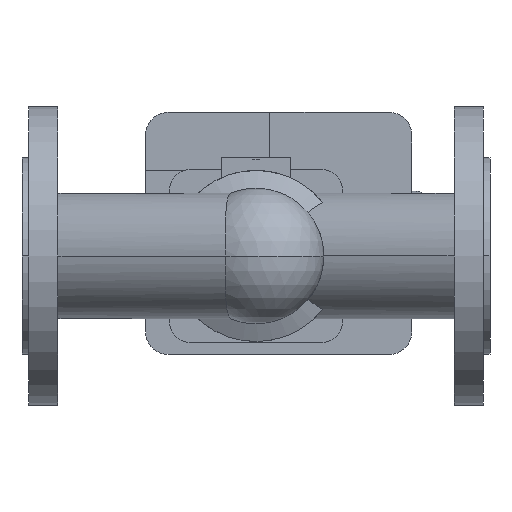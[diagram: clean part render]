
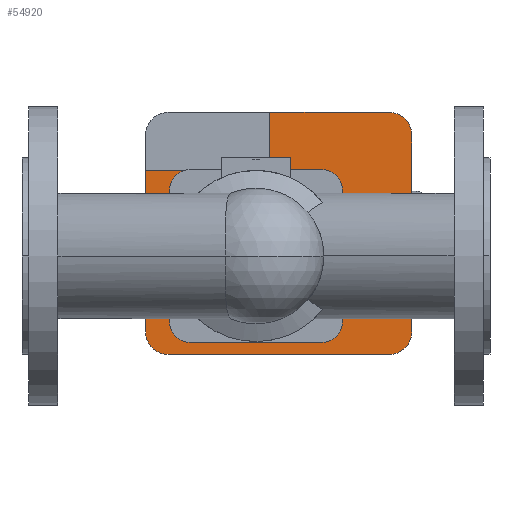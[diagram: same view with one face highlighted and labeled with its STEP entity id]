
A CAD part, front view. The second image highlights one B-rep face of the part: STEP entity #54920.
In plain terms, the highlighted planar face has unit normal (0, -1, 0).
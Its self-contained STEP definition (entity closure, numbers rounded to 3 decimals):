
#40640=CARTESIAN_POINT('',(204.96,339.,11.216));
#40650=VERTEX_POINT('',#40640);
#40680=CARTESIAN_POINT('',(195.,339.,0.));
#40690=DIRECTION('',(0.,1.,0.));
#40700=DIRECTION('',(0.,0.,1.));
#40710=AXIS2_PLACEMENT_3D('',#40680,#40690,#40700);
#40720=CIRCLE('',#40710,15.);
#40730=CARTESIAN_POINT('',(204.96,339.,-11.216));
#40740=VERTEX_POINT('',#40730);
#40750=EDGE_CURVE('',#40650,#40740,#40720,.T.);
#43470=CARTESIAN_POINT('',(187.116,339.,44.128));
#43480=VERTEX_POINT('',#43470);
#43510=CARTESIAN_POINT('',(145.,339.,0.));
#43520=DIRECTION('',(0.,1.,0.));
#43530=DIRECTION('',(0.69,0.,0.723));
#43540=AXIS2_PLACEMENT_3D('',#43510,#43520,#43530);
#43550=CIRCLE('',#43540,61.);
#43560=EDGE_CURVE('',#43480,#40650,#43550,.T.);
#43950=CARTESIAN_POINT('',(85.04,339.,-11.216));
#43960=VERTEX_POINT('',#43950);
#43990=CARTESIAN_POINT('',(95.,339.,0.));
#44000=DIRECTION('',(0.,1.,0.));
#44010=DIRECTION('',(0.,0.,-1.));
#44020=AXIS2_PLACEMENT_3D('',#43990,#44000,#44010);
#44030=CIRCLE('',#44020,15.);
#44040=CARTESIAN_POINT('',(85.04,339.,11.216));
#44050=VERTEX_POINT('',#44040);
#44060=EDGE_CURVE('',#43960,#44050,#44030,.T.);
#45050=CARTESIAN_POINT('',(102.884,339.,-44.128));
#45060=VERTEX_POINT('',#45050);
#45090=CARTESIAN_POINT('',(145.,339.,0.));
#45100=DIRECTION('',(0.,1.,0.));
#45110=DIRECTION('',(-0.69,0.,-0.723));
#45120=AXIS2_PLACEMENT_3D('',#45090,#45100,#45110);
#45130=CIRCLE('',#45120,61.);
#45140=EDGE_CURVE('',#45060,#43960,#45130,.T.);
#50790=CARTESIAN_POINT('',(241.6,339.,-47.));
#50800=VERTEX_POINT('',#50790);
#50830=CARTESIAN_POINT('',(241.6,339.,75.));
#50840=DIRECTION('',(0.,0.,-1.));
#50850=VECTOR('',#50840,1.);
#50860=LINE('',#50830,#50850);
#50870=CARTESIAN_POINT('',(241.6,339.,75.));
#50880=VERTEX_POINT('',#50870);
#50890=EDGE_CURVE('',#50880,#50800,#50860,.T.);
#51210=CARTESIAN_POINT('',(90.6,339.,-61.));
#51220=VERTEX_POINT('',#51210);
#51250=CARTESIAN_POINT('',(227.6,339.,-61.));
#51260=DIRECTION('',(-1.,0.,0.));
#51270=VECTOR('',#51260,1.);
#51280=LINE('',#51250,#51270);
#51290=CARTESIAN_POINT('',(227.6,339.,-61.));
#51300=VERTEX_POINT('',#51290);
#51310=EDGE_CURVE('',#51300,#51220,#51280,.T.);
#51910=CARTESIAN_POINT('',(227.6,339.,-47.));
#51920=DIRECTION('',(0.,1.,0.));
#51930=DIRECTION('',(1.,0.,0.));
#51940=AXIS2_PLACEMENT_3D('',#51910,#51920,#51930);
#51950=CIRCLE('',#51940,14.);
#51960=EDGE_CURVE('',#50800,#51300,#51950,.T.);
#52280=CARTESIAN_POINT('',(102.884,339.,44.128));
#52290=VERTEX_POINT('',#52280);
#52320=CARTESIAN_POINT('',(112.55,339.,34.));
#52330=DIRECTION('',(0.,1.,0.));
#52340=DIRECTION('',(-0.69,0.,0.723));
#52350=AXIS2_PLACEMENT_3D('',#52320,#52330,#52340);
#52360=CIRCLE('',#52350,14.);
#52370=CARTESIAN_POINT('',(112.55,339.,48.));
#52380=VERTEX_POINT('',#52370);
#52390=EDGE_CURVE('',#52290,#52380,#52360,.T.);
#52570=CARTESIAN_POINT('',(128.775,339.,48.));
#52580=DIRECTION('',(1.,0.,0.));
#52590=VECTOR('',#52580,1.);
#52600=LINE('',#52570,#52590);
#52610=CARTESIAN_POINT('',(177.45,339.,48.));
#52620=VERTEX_POINT('',#52610);
#52630=EDGE_CURVE('',#52380,#52620,#52600,.T.);
#52810=CARTESIAN_POINT('',(177.45,339.,34.));
#52820=DIRECTION('',(0.,1.,0.));
#52830=DIRECTION('',(0.,0.,1.));
#52840=AXIS2_PLACEMENT_3D('',#52810,#52820,#52830);
#52850=CIRCLE('',#52840,14.);
#52860=EDGE_CURVE('',#52620,#43480,#52850,.T.);
#52980=CARTESIAN_POINT('',(145.,339.,0.));
#52990=DIRECTION('',(0.,1.,0.));
#53000=DIRECTION('',(0.69,0.,0.723));
#53010=AXIS2_PLACEMENT_3D('',#52980,#52990,#53000);
#53020=CIRCLE('',#53010,61.);
#53030=CARTESIAN_POINT('',(187.116,339.,-44.128));
#53040=VERTEX_POINT('',#53030);
#53050=EDGE_CURVE('',#40740,#53040,#53020,.T.);
#53240=CARTESIAN_POINT('',(177.45,339.,-34.));
#53250=DIRECTION('',(0.,1.,0.));
#53260=DIRECTION('',(0.69,0.,-0.723));
#53270=AXIS2_PLACEMENT_3D('',#53240,#53250,#53260);
#53280=CIRCLE('',#53270,14.);
#53290=CARTESIAN_POINT('',(177.45,339.,-48.));
#53300=VERTEX_POINT('',#53290);
#53310=EDGE_CURVE('',#53040,#53300,#53280,.T.);
#53490=CARTESIAN_POINT('',(161.225,339.,-48.));
#53500=DIRECTION('',(-1.,0.,0.));
#53510=VECTOR('',#53500,1.);
#53520=LINE('',#53490,#53510);
#53530=CARTESIAN_POINT('',(112.55,339.,-48.));
#53540=VERTEX_POINT('',#53530);
#53550=EDGE_CURVE('',#53300,#53540,#53520,.T.);
#53730=CARTESIAN_POINT('',(112.55,339.,-34.));
#53740=DIRECTION('',(0.,1.,0.));
#53750=DIRECTION('',(0.,0.,-1.));
#53760=AXIS2_PLACEMENT_3D('',#53730,#53740,#53750);
#53770=CIRCLE('',#53760,14.);
#53780=EDGE_CURVE('',#53540,#45060,#53770,.T.);
#53900=CARTESIAN_POINT('',(145.,339.,0.));
#53910=DIRECTION('',(0.,1.,0.));
#53920=DIRECTION('',(-0.69,0.,-0.723));
#53930=AXIS2_PLACEMENT_3D('',#53900,#53910,#53920);
#53940=CIRCLE('',#53930,61.);
#53950=EDGE_CURVE('',#44050,#52290,#53940,.T.);
#54090=CARTESIAN_POINT('',(227.6,339.,75.));
#54100=DIRECTION('',(0.,1.,0.));
#54110=DIRECTION('',(0.,0.,1.));
#54120=AXIS2_PLACEMENT_3D('',#54090,#54100,#54110);
#54130=CIRCLE('',#54120,14.);
#54140=CARTESIAN_POINT('',(227.6,339.,89.));
#54150=VERTEX_POINT('',#54140);
#54160=EDGE_CURVE('',#54150,#50880,#54130,.T.);
#54280=CARTESIAN_POINT('',(145.,339.,0.));
#54290=DIRECTION('',(0.,1.,0.));
#54300=DIRECTION('',(0.,0.,1.));
#54310=AXIS2_PLACEMENT_3D('',#54280,#54290,#54300);
#54320=PLANE('',#54310);
#54330=ORIENTED_EDGE('',*,*,#43560,.T.);
#54340=ORIENTED_EDGE('',*,*,#52860,.T.);
#54350=ORIENTED_EDGE('',*,*,#52630,.T.);
#54360=ORIENTED_EDGE('',*,*,#52390,.T.);
#54370=ORIENTED_EDGE('',*,*,#53950,.T.);
#54380=ORIENTED_EDGE('',*,*,#44060,.T.);
#54390=ORIENTED_EDGE('',*,*,#45140,.T.);
#54400=ORIENTED_EDGE('',*,*,#53780,.T.);
#54410=ORIENTED_EDGE('',*,*,#53550,.T.);
#54420=ORIENTED_EDGE('',*,*,#53310,.T.);
#54430=ORIENTED_EDGE('',*,*,#53050,.T.);
#54440=ORIENTED_EDGE('',*,*,#40750,.T.);
#54450=EDGE_LOOP('',(#54440,#54430,#54420,#54410,#54400,#54390,#54380,
#54370,#54360,#54350,#54340,#54330));
#54460=FACE_BOUND('',#54450,.T.);
#54470=CARTESIAN_POINT('',(153.6,339.,26.5));
#54480=DIRECTION('',(0.,0.,-1.));
#54490=VECTOR('',#54480,1.);
#54500=LINE('',#54470,#54490);
#54510=CARTESIAN_POINT('',(153.6,339.,89.));
#54520=VERTEX_POINT('',#54510);
#54530=CARTESIAN_POINT('',(153.6,339.,53.));
#54540=VERTEX_POINT('',#54530);
#54550=EDGE_CURVE('',#54520,#54540,#54500,.T.);
#54560=ORIENTED_EDGE('',*,*,#54550,.T.);
#54570=CARTESIAN_POINT('',(90.6,339.,89.));
#54580=DIRECTION('',(1.,0.,0.));
#54590=VECTOR('',#54580,1.);
#54600=LINE('',#54570,#54590);
#54610=EDGE_CURVE('',#54520,#54150,#54600,.T.);
#54620=ORIENTED_EDGE('',*,*,#54610,.F.);
#54630=ORIENTED_EDGE('',*,*,#54160,.F.);
#54640=ORIENTED_EDGE('',*,*,#50890,.F.);
#54650=ORIENTED_EDGE('',*,*,#51960,.F.);
#54660=ORIENTED_EDGE('',*,*,#51310,.F.);
#54670=CARTESIAN_POINT('',(90.6,339.,-47.));
#54680=DIRECTION('',(0.,1.,0.));
#54690=DIRECTION('',(0.,0.,-1.));
#54700=AXIS2_PLACEMENT_3D('',#54670,#54680,#54690);
#54710=CIRCLE('',#54700,14.);
#54720=CARTESIAN_POINT('',(76.6,339.,-47.));
#54730=VERTEX_POINT('',#54720);
#54740=EDGE_CURVE('',#51220,#54730,#54710,.T.);
#54750=ORIENTED_EDGE('',*,*,#54740,.F.);
#54760=CARTESIAN_POINT('',(76.6,339.,-47.));
#54770=DIRECTION('',(0.,0.,1.));
#54780=VECTOR('',#54770,1.);
#54790=LINE('',#54760,#54780);
#54800=CARTESIAN_POINT('',(76.6,339.,53.));
#54810=VERTEX_POINT('',#54800);
#54820=EDGE_CURVE('',#54730,#54810,#54790,.T.);
#54830=ORIENTED_EDGE('',*,*,#54820,.F.);
#54840=CARTESIAN_POINT('',(110.3,339.,53.));
#54850=DIRECTION('',(-1.,0.,0.));
#54860=VECTOR('',#54850,1.);
#54870=LINE('',#54840,#54860);
#54880=EDGE_CURVE('',#54540,#54810,#54870,.T.);
#54890=ORIENTED_EDGE('',*,*,#54880,.T.);
#54900=EDGE_LOOP('',(#54890,#54830,#54750,#54660,#54650,#54640,#54630,
#54620,#54560));
#54910=FACE_OUTER_BOUND('',#54900,.T.);
#54920=ADVANCED_FACE('',(#54460,#54910),#54320,.F.);
